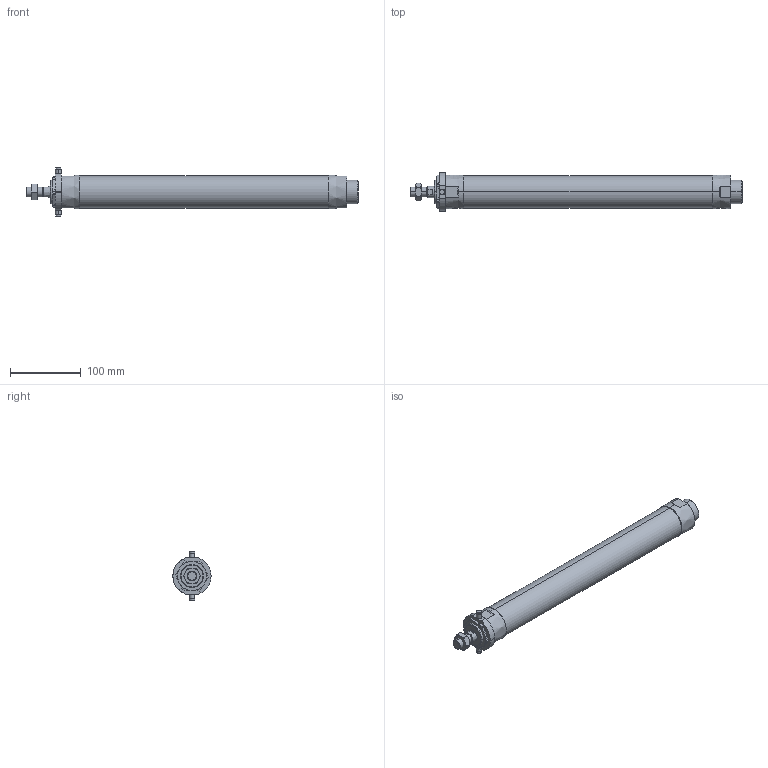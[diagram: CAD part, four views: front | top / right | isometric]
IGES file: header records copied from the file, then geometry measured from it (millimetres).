
Start section: SolidWorks IGES file using analytic representation for surfaces
Global section: file name: C:\Users\Toshiba\Desktop\J#2-40-300-T.IGS; native system: SolidWorks 2014; preprocessor: SolidWorks 2014; author: Toshiba; date: 160308.161036; units: millimetre
Bounding box: 469 x 54 x 70 mm (x, y, z)
Surface area: 77625.4 mm2 (no closed solid volume)
Topology: 0 solids, 0 shells, 121 faces, 2282 edges, 2278 vertices
Faces by surface type: bspline 63, revolution 58
